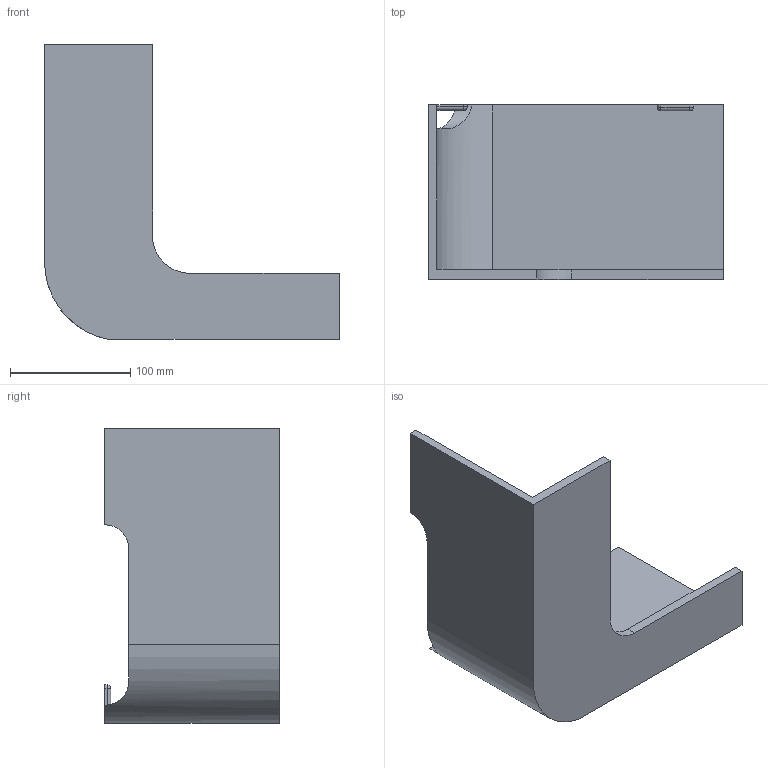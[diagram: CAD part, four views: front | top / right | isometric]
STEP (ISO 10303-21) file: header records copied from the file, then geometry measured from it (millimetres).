
FILE_DESCRIPTION(/* description */ (''),/* implementation_level */ '2;1');
FILE_NAME(/* name */ 'FrontFP2.3_MIR_MIR.stp',/* time_stamp */ '2025-10-17T11:25:21+05:00',/* author */ ('yrysz'),/* organization */ (''),/* preprocessor_version */ 'ST-DEVELOPER v20',/* originating_system */ 'Autodesk Inventor 2025',/* authorisation */ '');
FILE_SCHEMA (('AUTOMOTIVE_DESIGN { 1 0 10303 214 3 1 1 }'));
Length unit declared in the file: millimetre
Products named in the file (1): FrontFP2.3_MIR_MIR
Bounding box: 245 x 145 x 245 mm (x, y, z)
Volume: 671429.8 mm3; surface area: 191797.3 mm2
Topology: 1 solids, 1 shells, 42 faces, 108 edges, 68 vertices
Faces by surface type: plane 21, cylinder 17, sphere 4
Full cylindrical faces by diameter (mm): 2.8 x2
Entity records: 1343 total; most frequent: CARTESIAN_POINT 245, DIRECTION 226, ORIENTED_EDGE 216, EDGE_CURVE 108, AXIS2_PLACEMENT_3D 77, LINE 72, VECTOR 72, VERTEX_POINT 68
